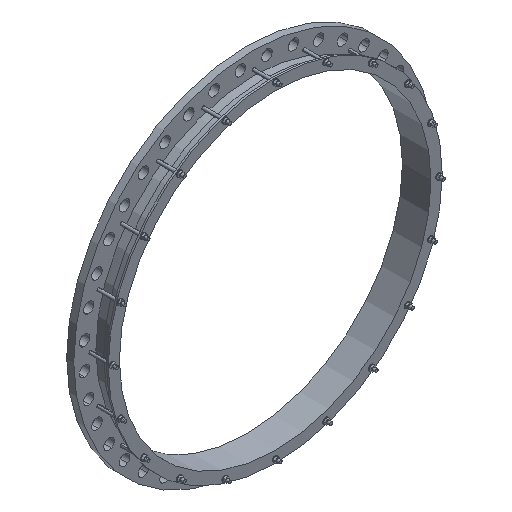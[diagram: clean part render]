
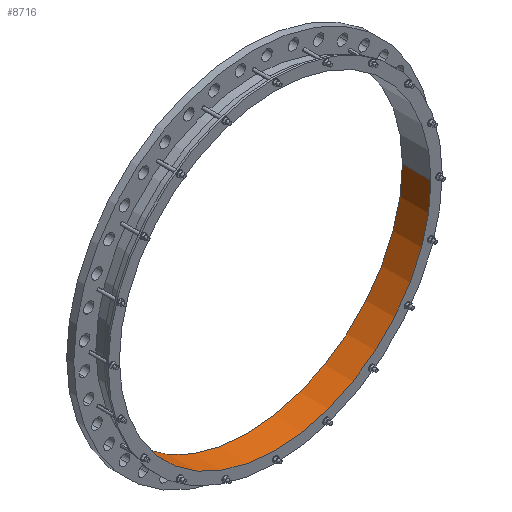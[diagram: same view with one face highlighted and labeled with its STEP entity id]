
A CAD part, isometric view. The second image highlights one B-rep face of the part: STEP entity #8716.
In plain terms, the highlighted cylindrical face has radius 835.25 mm (diameter 1670.5 mm), a partial arc.
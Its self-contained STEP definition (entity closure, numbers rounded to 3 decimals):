
#7=CARTESIAN_POINT('',(0.,38.,0.));
#8=DIRECTION('',(0.,1.,0.));
#9=DIRECTION('',(1.,0.,0.));
#10=AXIS2_PLACEMENT_3D('',#7,#8,#9);
#2379=CARTESIAN_POINT('',(0.,-115.,0.));
#2380=DIRECTION('',(0.,1.,0.));
#2381=DIRECTION('',(1.,0.,0.));
#2382=AXIS2_PLACEMENT_3D('',#2379,#2380,#2381);
#2384=DIRECTION('',(0.,1.,0.));
#2385=VECTOR('',#2384,153.);
#2386=CARTESIAN_POINT('',(835.25,-115.,0.));
#2387=LINE('',#2386,#2385);
#2388=DIRECTION('',(0.,1.,0.));
#2389=VECTOR('',#2388,153.);
#2390=CARTESIAN_POINT('',(-835.25,-115.,0.));
#2391=LINE('',#2390,#2389);
#6128=CARTESIAN_POINT('',(835.25,-115.,0.));
#6129=CARTESIAN_POINT('',(835.25,38.,0.));
#6130=VERTEX_POINT('',#6128);
#6131=VERTEX_POINT('',#6129);
#6140=CARTESIAN_POINT('',(-835.25,-115.,0.));
#6141=CARTESIAN_POINT('',(-835.25,38.,0.));
#6142=VERTEX_POINT('',#6140);
#6143=VERTEX_POINT('',#6141);
#8703=CARTESIAN_POINT('',(0.,-122.65,0.));
#8704=DIRECTION('',(0.,1.,0.));
#8705=DIRECTION('',(-1.,0.,0.));
#8706=AXIS2_PLACEMENT_3D('',#8703,#8704,#8705);
#8707=CYLINDRICAL_SURFACE('',#8706,835.25);
#8709=ORIENTED_EDGE('',*,*,#8708,.F.);
#8710=ORIENTED_EDGE('',*,*,#8578,.T.);
#8712=ORIENTED_EDGE('',*,*,#8711,.T.);
#8713=ORIENTED_EDGE('',*,*,#7497,.F.);
#8714=EDGE_LOOP('',(#8709,#8710,#8712,#8713));
#8715=FACE_OUTER_BOUND('',#8714,.F.);
#8716=ADVANCED_FACE('',(#8715),#8707,.F.);
#11=CIRCLE('',#10,835.25);
#2383=CIRCLE('',#2382,835.25);
#7497=EDGE_CURVE('',#6131,#6143,#11,.T.);
#8578=EDGE_CURVE('',#6130,#6142,#2383,.T.);
#8708=EDGE_CURVE('',#6130,#6131,#2387,.T.);
#8711=EDGE_CURVE('',#6142,#6143,#2391,.T.);
